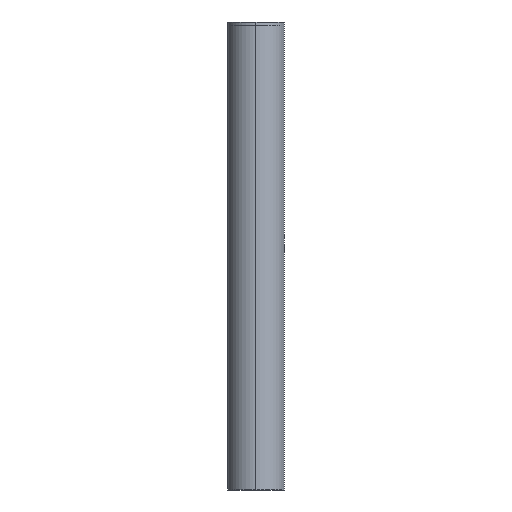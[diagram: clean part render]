
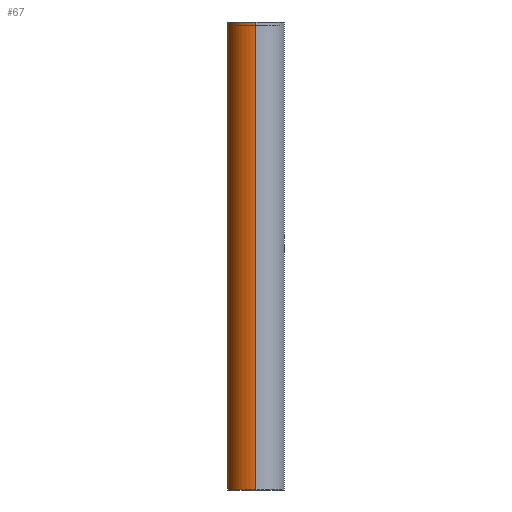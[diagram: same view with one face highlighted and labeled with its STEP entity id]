
A CAD part, left-side view. The second image highlights one B-rep face of the part: STEP entity #67.
In plain terms, the highlighted free-form (B-spline) face has degree [2, 1] with [5, 2] control points.
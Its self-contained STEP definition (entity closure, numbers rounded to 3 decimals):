
#67=ADVANCED_FACE('',(#93),#383,.T.);
#93=FACE_OUTER_BOUND('',#120,.T.);
#120=EDGE_LOOP('',(#161,#162,#163,#164));
#161=ORIENTED_EDGE('',*,*,#252,.T.);
#162=ORIENTED_EDGE('',*,*,#251,.F.);
#163=ORIENTED_EDGE('',*,*,#250,.F.);
#164=ORIENTED_EDGE('',*,*,#249,.T.);
#249=EDGE_CURVE('',#343,#345,#297,.T.);
#250=EDGE_CURVE('',#343,#344,#298,.T.);
#251=EDGE_CURVE('',#344,#346,#299,.T.);
#252=EDGE_CURVE('',#345,#346,#300,.T.);
#297=(
BOUNDED_CURVE()
B_SPLINE_CURVE(2,(#518,#519,#520,#521,#522),.UNSPECIFIED.,.F.,.F.)
B_SPLINE_CURVE_WITH_KNOTS((3,2,3),(0.,47.36,94.719),
 .UNSPECIFIED.)
CURVE()
GEOMETRIC_REPRESENTATION_ITEM()
RATIONAL_B_SPLINE_CURVE((1.,0.707,1.,0.707,1.))
REPRESENTATION_ITEM('')
);
#298=(
BOUNDED_CURVE()
B_SPLINE_CURVE(1,(#523,#524),.UNSPECIFIED.,.F.,.F.)
B_SPLINE_CURVE_WITH_KNOTS((2,2),(0.,500.),.UNSPECIFIED.)
CURVE()
GEOMETRIC_REPRESENTATION_ITEM()
RATIONAL_B_SPLINE_CURVE((1.,1.))
REPRESENTATION_ITEM('')
);
#299=(
BOUNDED_CURVE()
B_SPLINE_CURVE(2,(#525,#526,#527,#528,#529),.UNSPECIFIED.,.F.,.F.)
B_SPLINE_CURVE_WITH_KNOTS((3,2,3),(0.,47.36,94.719),
 .UNSPECIFIED.)
CURVE()
GEOMETRIC_REPRESENTATION_ITEM()
RATIONAL_B_SPLINE_CURVE((1.,0.707,1.,0.707,1.))
REPRESENTATION_ITEM('')
);
#300=(
BOUNDED_CURVE()
B_SPLINE_CURVE(1,(#530,#531),.UNSPECIFIED.,.F.,.F.)
B_SPLINE_CURVE_WITH_KNOTS((2,2),(0.,500.),.UNSPECIFIED.)
CURVE()
GEOMETRIC_REPRESENTATION_ITEM()
RATIONAL_B_SPLINE_CURVE((1.,1.))
REPRESENTATION_ITEM('')
);
#343=VERTEX_POINT('',#490);
#344=VERTEX_POINT('',#491);
#345=VERTEX_POINT('',#492);
#346=VERTEX_POINT('',#493);
#383=(
BOUNDED_SURFACE()
B_SPLINE_SURFACE(2,1,((#465,#466),(#467,#468),(#469,#470),(#471,#472),(#473,
#474)),.UNSPECIFIED.,.F.,.F.,.F.)
B_SPLINE_SURFACE_WITH_KNOTS((3,2,3),(2,2),(0.,47.36,94.719),
(0.,500.),.UNSPECIFIED.)
GEOMETRIC_REPRESENTATION_ITEM()
RATIONAL_B_SPLINE_SURFACE(((1.,1.),(0.707,0.707),
(1.,1.),(0.707,0.707),(1.,1.)))
REPRESENTATION_ITEM('')
SURFACE()
);
#465=CARTESIAN_POINT('',(30.15,0.,0.));
#466=CARTESIAN_POINT('',(30.15,0.,500.));
#467=CARTESIAN_POINT('',(30.15,30.15,0.));
#468=CARTESIAN_POINT('',(30.15,30.15,500.));
#469=CARTESIAN_POINT('',(0.,30.15,0.));
#470=CARTESIAN_POINT('',(0.,30.15,500.));
#471=CARTESIAN_POINT('',(-30.15,30.15,0.));
#472=CARTESIAN_POINT('',(-30.15,30.15,500.));
#473=CARTESIAN_POINT('',(-30.15,0.,0.));
#474=CARTESIAN_POINT('',(-30.15,0.,500.));
#490=CARTESIAN_POINT('',(30.15,0.,0.));
#491=CARTESIAN_POINT('',(30.15,0.,500.));
#492=CARTESIAN_POINT('',(-30.15,0.,0.));
#493=CARTESIAN_POINT('',(-30.15,0.,500.));
#518=CARTESIAN_POINT('',(30.15,0.,0.));
#519=CARTESIAN_POINT('',(30.15,30.15,0.));
#520=CARTESIAN_POINT('',(0.,30.15,0.));
#521=CARTESIAN_POINT('',(-30.15,30.15,0.));
#522=CARTESIAN_POINT('',(-30.15,0.,0.));
#523=CARTESIAN_POINT('',(30.15,0.,0.));
#524=CARTESIAN_POINT('',(30.15,0.,500.));
#525=CARTESIAN_POINT('',(30.15,0.,500.));
#526=CARTESIAN_POINT('',(30.15,30.15,500.));
#527=CARTESIAN_POINT('',(0.,30.15,500.));
#528=CARTESIAN_POINT('',(-30.15,30.15,500.));
#529=CARTESIAN_POINT('',(-30.15,0.,500.));
#530=CARTESIAN_POINT('',(-30.15,0.,0.));
#531=CARTESIAN_POINT('',(-30.15,0.,500.));
